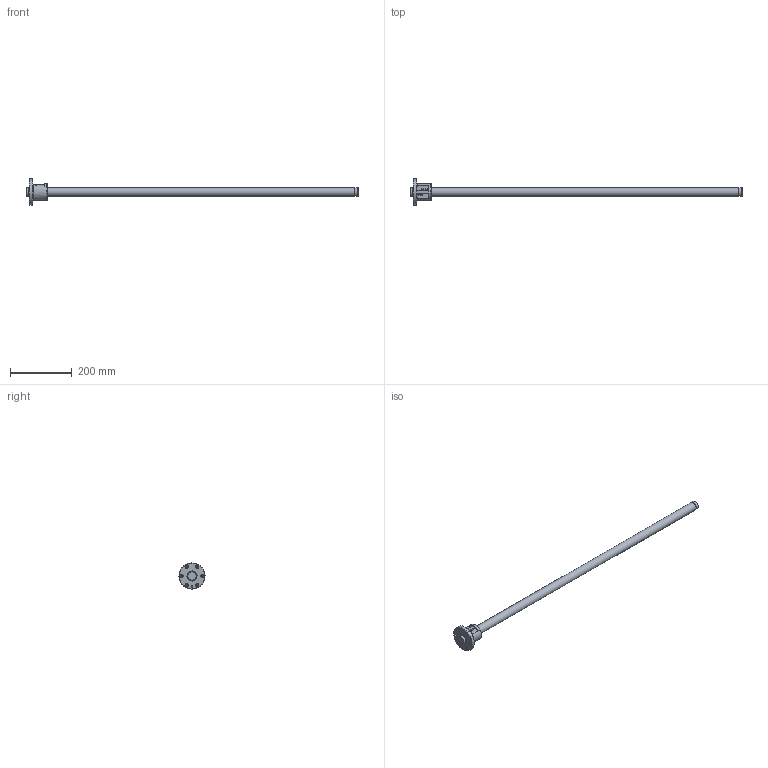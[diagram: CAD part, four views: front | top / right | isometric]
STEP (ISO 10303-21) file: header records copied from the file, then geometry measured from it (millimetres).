
FILE_DESCRIPTION( ( 'STEP AP203' ), ' ' );
FILE_NAME( 'p:/temp/worker_12/2884_3592/app_90_12018011811265788043374818fa3fd_000000_00_00_000000/format_0/BIF2805-5RRG0+1079LC0_10000.stp', '2018-01-18T10:26:58', ( '' ), ( '' ), ' ', 'PARTsolutions', ' ' );
FILE_SCHEMA( ( 'CONFIG_CONTROL_DESIGN' ) );
Length unit declared in the file: millimetre
Products named in the file (3): BIF2805-5RRG0+1079LC0_10000; _BIF 2805-5RR1000500 Shaft; _BIF 2805-5RR Nut
Assembly tree (2 placements, depth 2):
  BIF2805-5RRG0+1079LC0_10000
    _BIF 2805-5RR1000500 Shaft
    _BIF 2805-5RR Nut
Bounding box: 1079 x 85 x 85 mm (x, y, z)
Volume: 792285.3 mm3; surface area: 125992.7 mm2
Topology: 2 solids, 2 shells, 82 faces, 178 edges, 113 vertices
Faces by surface type: cylinder 39, plane 31, cone 8, torus 4
Full cylindrical faces by diameter (mm): 4.25 x2, 4.917 x1, 5.1 x4, 6.6 x6, 11 x6, 27.5 x2, 28 x4, 33 x2, 55 x1, 85 x1
Entity records: 2492 total; most frequent: CARTESIAN_POINT 701, DIRECTION 376, ORIENTED_EDGE 262, AXIS2_PLACEMENT_3D 172, EDGE_LOOP 156, EDGE_CURVE 131, FACE_OUTER_BOUND 111, VERTEX_POINT 103
